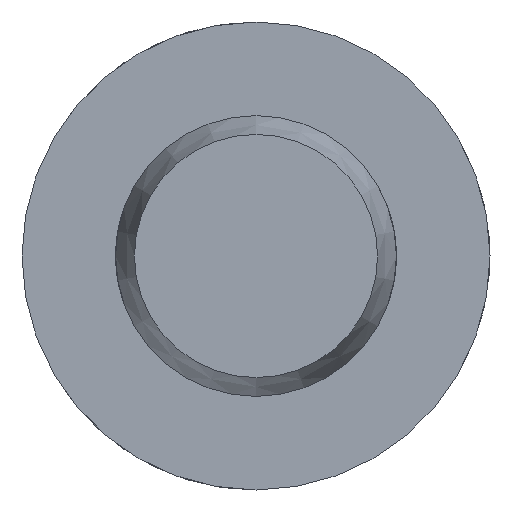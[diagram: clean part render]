
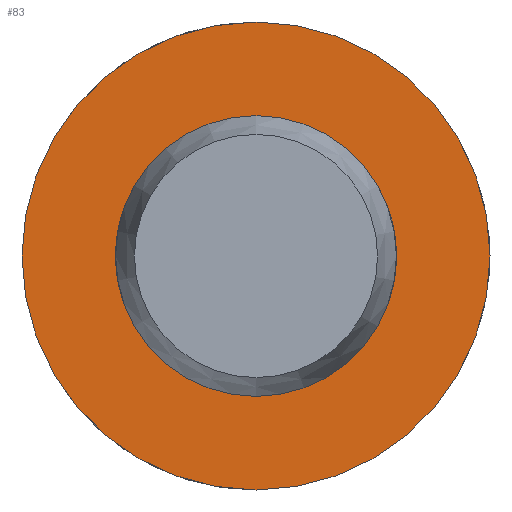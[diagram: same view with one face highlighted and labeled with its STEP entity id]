
A CAD part, left-side view. The second image highlights one B-rep face of the part: STEP entity #83.
In plain terms, the highlighted planar face has unit normal (-1, 0, 0).
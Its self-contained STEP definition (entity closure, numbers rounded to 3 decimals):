
#83 = ADVANCED_FACE( '', ( #128, #129 ), #130, .F. );
#128 = FACE_OUTER_BOUND( '', #205, .T. );
#129 = FACE_BOUND( '', #206, .T. );
#130 = PLANE( '', #207 );
#205 = EDGE_LOOP( '', ( #320 ) );
#206 = EDGE_LOOP( '', ( #321 ) );
#207 = AXIS2_PLACEMENT_3D( '', #322, #323, #324 );
#320 = ORIENTED_EDGE( '', *, *, #484, .F. );
#321 = ORIENTED_EDGE( '', *, *, #474, .T. );
#322 = CARTESIAN_POINT( '', ( 130.6, 6., 0. ) );
#323 = DIRECTION( '', ( 1., 0., 0. ) );
#324 = DIRECTION( '', ( 0., 0., -1. ) );
#474 = EDGE_CURVE( '', #545, #545, #546, .T. );
#484 = EDGE_CURVE( '', #563, #563, #564, .T. );
#545 = VERTEX_POINT( '', #734 );
#546 = CIRCLE( '', #735, 6. );
#563 = VERTEX_POINT( '', #903 );
#564 = CIRCLE( '', #904, 10. );
#734 = CARTESIAN_POINT( '', ( 130.6, 0., -6. ) );
#735 = AXIS2_PLACEMENT_3D( '', #965, #966, #967 );
#903 = CARTESIAN_POINT( '', ( 130.6, 0., -10. ) );
#904 = AXIS2_PLACEMENT_3D( '', #986, #987, #988 );
#965 = CARTESIAN_POINT( '', ( 130.6, 0., 0. ) );
#966 = DIRECTION( '', ( 1., 0., 0. ) );
#967 = DIRECTION( '', ( 0., 0., -1. ) );
#986 = CARTESIAN_POINT( '', ( 130.6, 0., 0. ) );
#987 = DIRECTION( '', ( 1., 0., 0. ) );
#988 = DIRECTION( '', ( 0., 0., -1. ) );
